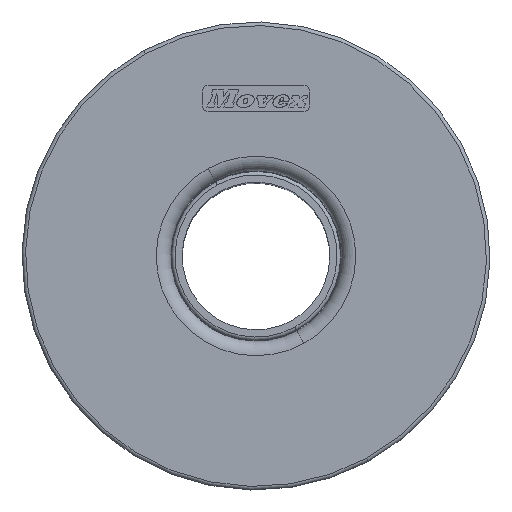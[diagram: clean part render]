
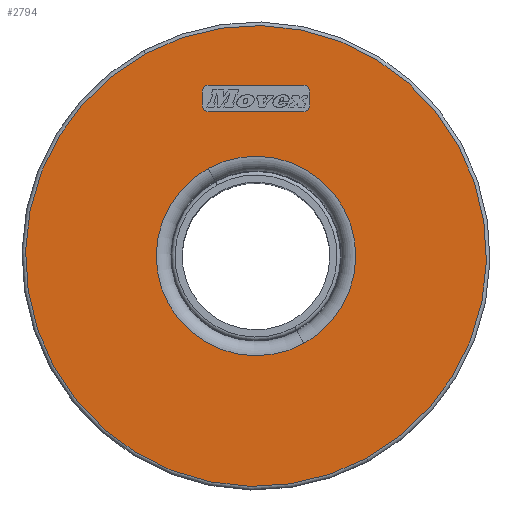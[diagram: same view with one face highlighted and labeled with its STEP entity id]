
A CAD part, top view. The second image highlights one B-rep face of the part: STEP entity #2794.
In plain terms, the highlighted planar face has unit normal (0, 0, 1).
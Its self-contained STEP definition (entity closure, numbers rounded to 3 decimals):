
#2488=EDGE_CURVE('',#7223,#7224,#7225,.F.);
#2780=EDGE_CURVE('',#7746,#7747,#7748,.F.);
#2794=ADVANCED_FACE('',(#7770,#7771,#7772),#7773,.T.);
#3258=EDGE_CURVE('',#8543,#8544,#8545,.T.);
#5290=EDGE_CURVE('',#7747,#10981,#11374,.T.);
#5658=EDGE_CURVE('',#9540,#7223,#11816,.T.);
#5686=EDGE_CURVE('',#10426,#11849,#11850,.T.);
#5810=EDGE_CURVE('',#11849,#10426,#11995,.T.);
#5838=EDGE_CURVE('',#7224,#10429,#12026,.T.);
#6218=EDGE_CURVE('',#9141,#7746,#12479,.T.);
#6368=EDGE_CURVE('',#10429,#9141,#12650,.F.);
#6574=EDGE_CURVE('',#8544,#8543,#12887,.T.);
#6686=EDGE_CURVE('',#10981,#9540,#13016,.T.);
#7223=VERTEX_POINT('',#13681);
#7224=VERTEX_POINT('',#13682);
#7225=LINE('',#13683,#13684);
#7746=VERTEX_POINT('',#14401);
#7747=VERTEX_POINT('',#14402);
#7748=LINE('',#14403,#14404);
#7770=FACE_OUTER_BOUND('',#14431,.T.);
#7771=FACE_BOUND('',#14432,.T.);
#7772=FACE_BOUND('',#14433,.T.);
#7773=PLANE('',#14434);
#8543=VERTEX_POINT('',#15522);
#8544=VERTEX_POINT('',#15523);
#8545=CIRCLE('',#15524,13.85);
#9141=VERTEX_POINT('',#16357);
#9540=VERTEX_POINT('',#16922);
#10426=VERTEX_POINT('',#18199);
#10429=VERTEX_POINT('',#18203);
#10981=VERTEX_POINT('',#19047);
#11374=CIRCLE('',#19645,1.0);
#11816=CIRCLE('',#20343,1.0);
#11849=VERTEX_POINT('',#20398);
#11850=CIRCLE('',#20399,32.0);
#11995=CIRCLE('',#20628,32.0);
#12026=CIRCLE('',#20681,1.0);
#12479=CIRCLE('',#21385,1.0);
#12650=LINE('',#21660,#21661);
#12887=CIRCLE('',#22032,13.85);
#13016=LINE('',#22234,#22235);
#13681=CARTESIAN_POINT('',(7.484,21.0,44.25));
#13682=CARTESIAN_POINT('',(7.484,22.742,44.25));
#13683=CARTESIAN_POINT('',(7.484,21.871,44.25));
#13684=VECTOR('',#22884,1.0);
#14401=CARTESIAN_POINT('',(-7.484,22.742,44.25));
#14402=CARTESIAN_POINT('',(-7.484,21.0,44.25));
#14403=CARTESIAN_POINT('',(-7.484,21.871,44.25));
#14404=VECTOR('',#23332,1.0);
#14431=EDGE_LOOP('',(#23363,#23364));
#14432=EDGE_LOOP('',(#23365,#23366,#23367,#23368,#23369,#23370,#23371,#23372));
#14433=EDGE_LOOP('',(#23373,#23374));
#14434=AXIS2_PLACEMENT_3D('',#23375,#23376,#23377);
#15522=CARTESIAN_POINT('',(-6.64,12.155,44.25));
#15523=CARTESIAN_POINT('',(6.64,-12.155,44.25));
#15524=AXIS2_PLACEMENT_3D('',#24072,#24073,#24074);
#16357=CARTESIAN_POINT('',(-6.484,23.742,44.25));
#16922=CARTESIAN_POINT('',(6.484,20.0,44.25));
#18199=CARTESIAN_POINT('',(-15.342,28.083,44.25));
#18203=CARTESIAN_POINT('',(6.484,23.742,44.25));
#19047=CARTESIAN_POINT('',(-6.484,20.0,44.25));
#19645=AXIS2_PLACEMENT_3D('',#27786,#27787,#27788);
#20343=AXIS2_PLACEMENT_3D('',#28328,#28329,#28330);
#20398=CARTESIAN_POINT('',(15.342,-28.083,44.25));
#20399=AXIS2_PLACEMENT_3D('',#28360,#28361,#28362);
#20628=AXIS2_PLACEMENT_3D('',#28730,#28731,#28732);
#20681=AXIS2_PLACEMENT_3D('',#28762,#28763,#28764);
#21385=AXIS2_PLACEMENT_3D('',#29708,#29709,#29710);
#21660=CARTESIAN_POINT('',(0.,23.742,44.25));
#21661=VECTOR('',#29932,1.0);
#22032=AXIS2_PLACEMENT_3D('',#30267,#30268,#30269);
#22234=CARTESIAN_POINT('',(0.,20.0,44.25));
#22235=VECTOR('',#30454,1.0);
#22884=DIRECTION('',(0.,-1.0,0.0));
#23332=DIRECTION('',(0.0,1.0,0.0));
#23363=ORIENTED_EDGE('',*,*,#5810,.T.);
#23364=ORIENTED_EDGE('',*,*,#5686,.T.);
#23365=ORIENTED_EDGE('',*,*,#6686,.F.);
#23366=ORIENTED_EDGE('',*,*,#5290,.F.);
#23367=ORIENTED_EDGE('',*,*,#2780,.F.);
#23368=ORIENTED_EDGE('',*,*,#6218,.F.);
#23369=ORIENTED_EDGE('',*,*,#6368,.F.);
#23370=ORIENTED_EDGE('',*,*,#5838,.F.);
#23371=ORIENTED_EDGE('',*,*,#2488,.F.);
#23372=ORIENTED_EDGE('',*,*,#5658,.F.);
#23373=ORIENTED_EDGE('',*,*,#3258,.F.);
#23374=ORIENTED_EDGE('',*,*,#6574,.F.);
#23375=CARTESIAN_POINT('',(0.0,-32.0,44.25));
#23376=DIRECTION('',(0.0,0.0,1.0));
#23377=DIRECTION('',(1.0,0.0,0.0));
#24072=CARTESIAN_POINT('',(0.0,0.0,44.25));
#24073=DIRECTION('',(0.0,0.0,1.0));
#24074=DIRECTION('',(1.0,0.0,0.0));
#27786=CARTESIAN_POINT('',(-6.484,21.0,44.25));
#27787=DIRECTION('',(0.0,0.0,1.0));
#27788=DIRECTION('',(1.0,0.0,0.0));
#28328=CARTESIAN_POINT('',(6.484,21.0,44.25));
#28329=DIRECTION('',(0.0,0.0,1.0));
#28330=DIRECTION('',(1.0,0.0,0.0));
#28360=CARTESIAN_POINT('',(0.0,0.0,44.25));
#28361=DIRECTION('',(0.0,0.0,1.0));
#28362=DIRECTION('',(1.0,0.0,0.0));
#28730=CARTESIAN_POINT('',(0.0,0.0,44.25));
#28731=DIRECTION('',(0.0,0.0,1.0));
#28732=DIRECTION('',(1.0,0.0,0.0));
#28762=CARTESIAN_POINT('',(6.484,22.742,44.25));
#28763=DIRECTION('',(0.0,0.0,1.0));
#28764=DIRECTION('',(1.0,0.0,0.0));
#29708=CARTESIAN_POINT('',(-6.484,22.742,44.25));
#29709=DIRECTION('',(0.0,0.0,1.0));
#29710=DIRECTION('',(1.0,0.0,0.0));
#29932=DIRECTION('',(1.0,0.0,0.0));
#30267=CARTESIAN_POINT('',(0.0,0.0,44.25));
#30268=DIRECTION('',(0.0,0.0,1.0));
#30269=DIRECTION('',(1.0,0.0,0.0));
#30454=DIRECTION('',(1.0,0.0,0.0));
